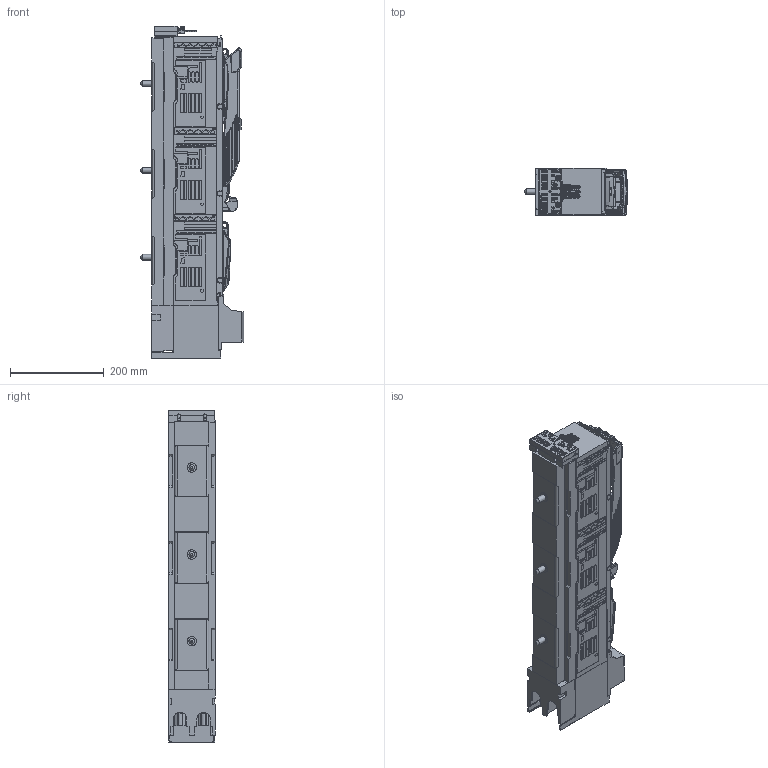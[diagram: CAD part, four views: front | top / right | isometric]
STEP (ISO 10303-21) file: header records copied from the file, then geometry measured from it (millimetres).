
FILE_DESCRIPTION(/* description */ (''),/* implementation_level */ '2;1');
FILE_NAME(/* name */ 'smartARS 2-6-V P pro.stp',/* time_stamp */ '2020-03-16T10:21:53+01:00',/* author */ (''),/* organization */ (''),/* preprocessor_version */ 'ST-DEVELOPER v16',/* originating_system */ 'SIEMENS PLM Software NX 10.0',/* authorisation */ '');
FILE_SCHEMA (('AUTOMOTIVE_DESIGN { 1 0 10303 214 3 1 1 1 }'));
Products named in the file (1): 710_297CCC3Ba45a
Bounding box: 219.86 x 100.23 x 707.17 mm (x, y, z)
Volume: 8845744.2 mm3; surface area: 724411.9 mm2
Topology: 4 solids, 28 shells, 9673 faces, 25699 edges, 16220 vertices
Faces by surface type: plane 4602, bspline 2432, cylinder 1456, extrusion 562, torus 215, cone 213, sphere 191, revolution 2
Full cylindrical faces by diameter (mm): 0.38 x1, 1.53 x6, 2.7 x6, 3 x16, 3.5 x4, 3.7 x4, 4 x6, 4.6 x2, 6.5 x1, 8 x1, 9.5 x4, 9.6 x2, 12 x3, 12.5 x3, 20 x3
Entity records: 414743 total; most frequent: CARTESIAN_POINT 195696, ORIENTED_EDGE 50666, DIRECTION 37609, EDGE_CURVE 25333, VERTEX_POINT 16145, VECTOR 13791, LINE 13229, AXIS2_PLACEMENT_3D 11908
